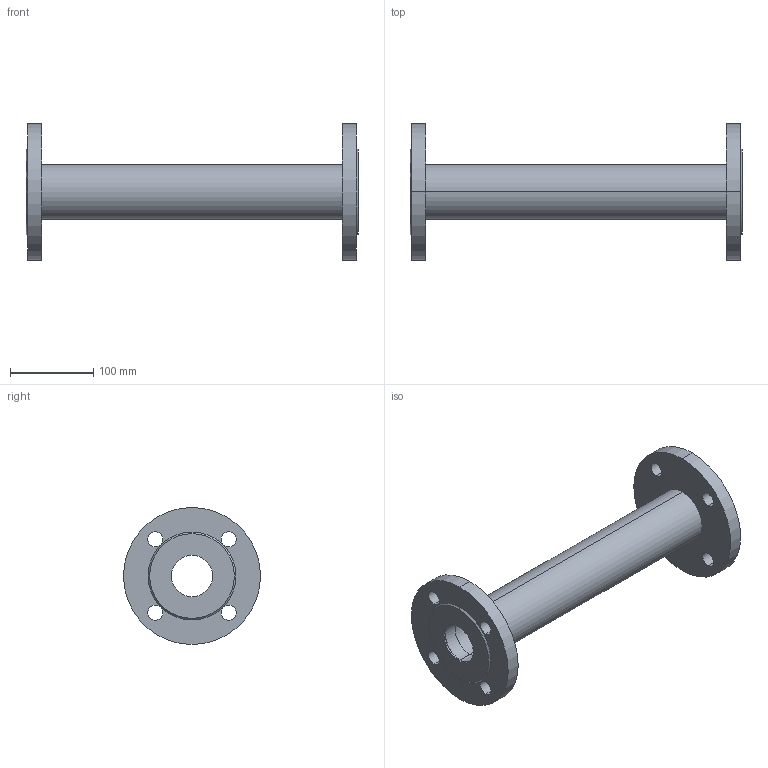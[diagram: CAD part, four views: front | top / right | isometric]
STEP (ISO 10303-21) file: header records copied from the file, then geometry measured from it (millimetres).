
FILE_DESCRIPTION(('STEP AP214'),'1');
FILE_NAME('U:/VDI-Daten/8500/8500_PN16_L400_DN50.STP','2012-06-12T14:04:31',(' '),(' '),'Spatial InterOp 3D',' ',' ');
FILE_SCHEMA(('automotive_design'));
Length unit declared in the file: millimetre
Products named in the file (5): 3D-Objekt
Bounding box: 400 x 165 x 165 mm (x, y, z)
Volume: 1227558 mm3; surface area: 279737.8 mm2
Topology: 5 solids, 5 shells, 46 faces, 108 edges, 72 vertices
Faces by surface type: cylinder 32, plane 10, cone 4
Entity records: 1901 total; most frequent: DIRECTION 282, CARTESIAN_POINT 231, ORIENTED_EDGE 216, AXIS2_PLACEMENT_3D 123, EDGE_CURVE 108, EDGE_LOOP 72, VERTEX_POINT 72, CIRCLE 72
